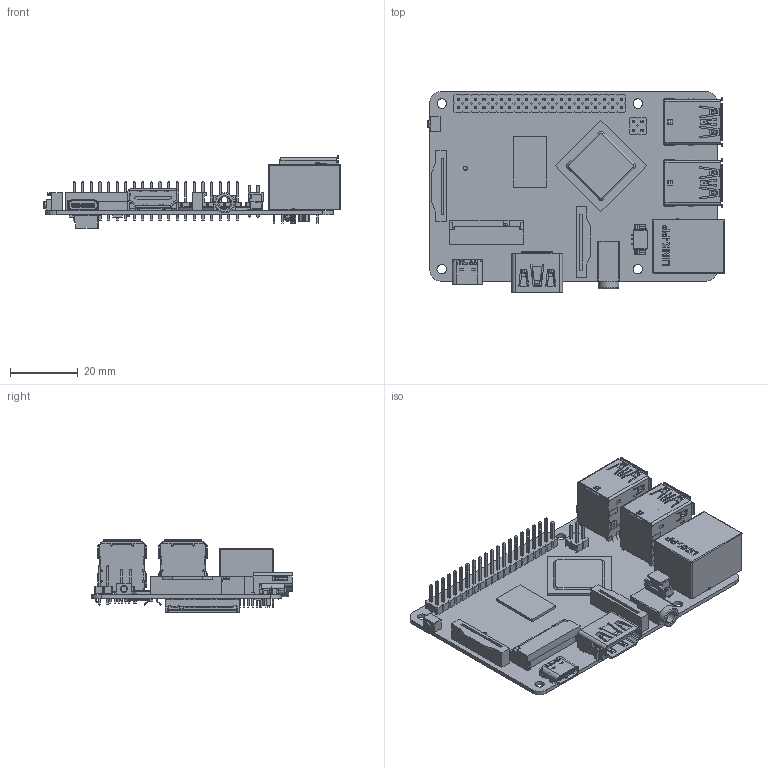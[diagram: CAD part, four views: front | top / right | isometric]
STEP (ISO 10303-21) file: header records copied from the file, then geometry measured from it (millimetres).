
FILE_DESCRIPTION((''),'2;1');
FILE_NAME('00_3A_PCBA_ASM','2023-11-28T09:59:58',('admin'),(''),'CREO PARAMETRIC BY PTC INC, 2023072','CREO PARAMETRIC BY PTC INC, 2023072','');
FILE_SCHEMA(('CONFIG_CONTROL_DESIGN','SHAPE_APPEARANCE_LAYERS_GROUPS'));
Products named in the file (16): 3A_PCB; 3A_TOP; PRT0001; LPJG0926HENL; 000_9; USB-16PIN-TYPEC_FIN_1_252_2_5; 123123_3; WT125AL-024C-0W_3_; 00_4_2; S40BA_1_2_1_2_1_1; APCI0107__0001; EMMC_13M5X18M5_P0M4_001_2_1_5; BTB_30P_0P4MM_AXE540124_1_2_1_5; 0010_ASM_1_ASM_2_ASM_1_ASM_5_ASM; EMMC_13M5X18M5_P0M4_ASM_2_ASM_1_ASM; 00_3A_PCBA_ASM
Assembly tree (16 placements, depth 4):
  00_3A_PCBA_ASM
    3A_PCB
    3A_TOP
    PRT0001  x2
    LPJG0926HENL
    000_9
    USB-16PIN-TYPEC_FIN_1_252_2_5
    123123_3
    WT125AL-024C-0W_3_
    00_4_2
    S40BA_1_2_1_2_1_1
    APCI0107__0001
    EMMC_13M5X18M5_P0M4_ASM_2_ASM_1_ASM
      0010_ASM_1_ASM_2_ASM_1_ASM_5_ASM
        EMMC_13M5X18M5_P0M4_001_2_1_5
        BTB_30P_0P4MM_AXE540124_1_2_1_5
Bounding box: 87.86 x 59.31 x 21.52 mm (x, y, z)
Volume: 18444.9 mm3; surface area: 26652.2 mm2
Topology: 19 solids, 21 shells, 8114 faces, 266250 edges, 488438 vertices
Faces by surface type: plane 6168, cylinder 1752, bspline 106, extrusion 33, torus 22, sphere 22, cone 11
Entity records: 2205767 total; most frequent: DIRECTION 293983, CARTESIAN_POINT 288933, PRESENTATION_STYLE_ASSIGNMENT 247665, STYLED_ITEM 247665, CURVE_STYLE 247624, VECTOR 245707, LINE 245674, TRIMMED_CURVE 243710
